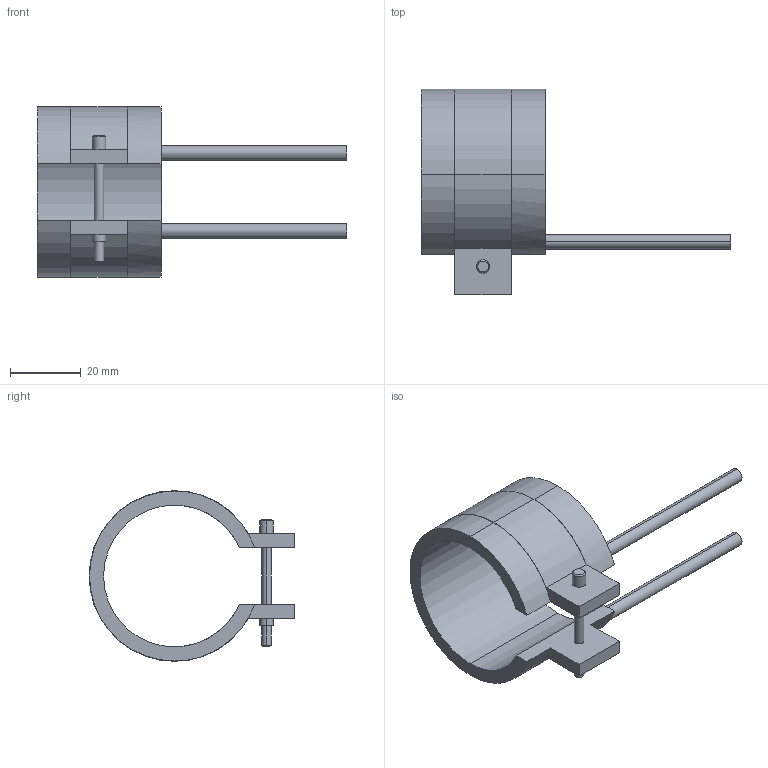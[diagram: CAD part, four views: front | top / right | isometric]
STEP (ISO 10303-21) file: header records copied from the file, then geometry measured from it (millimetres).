
FILE_DESCRIPTION(('CATIA V5 STEP Exchange'),'2;1');
FILE_NAME('C:\Users\Utente\Desktop\IO LAVORO\3D X SITO CF\X SITO\PLASTICA\RF2\14040035.stp','2021-03-31T11:30:24+00:00',('none'),('none'),'CATIA Version 5 Release 20 GA (IN-10)','CATIA V5 STEP AP203','none');
FILE_SCHEMA(('CONFIG_CONTROL_DESIGN'));
Length unit declared in the file: millimetre
Products named in the file (1): 14040035
Bounding box: 87.5 x 58.1 x 48.2 mm (x, y, z)
Volume: 20334.1 mm3; surface area: 12364.8 mm2
Topology: 1 solids, 1 shells, 45 faces, 116 edges, 76 vertices
Faces by surface type: cylinder 24, plane 17, cone 4
Entity records: 1394 total; most frequent: CARTESIAN_POINT 268, ORIENTED_EDGE 232, DIRECTION 196, EDGE_CURVE 116, AXIS2_PLACEMENT_3D 104, VERTEX_POINT 76, CIRCLE 62, VECTOR 52
